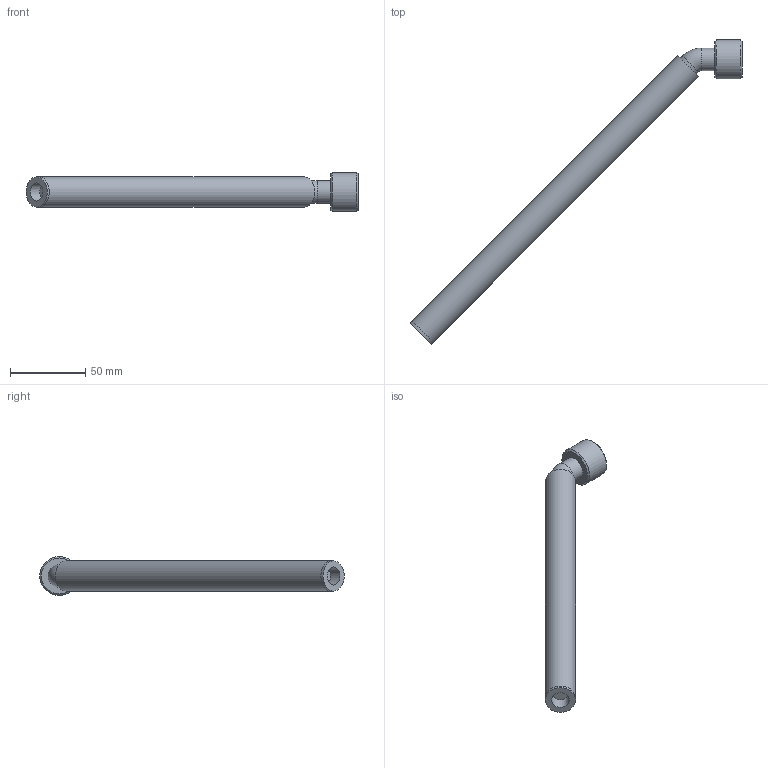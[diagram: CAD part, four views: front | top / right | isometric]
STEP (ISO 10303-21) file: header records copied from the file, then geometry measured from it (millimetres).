
FILE_DESCRIPTION( ( 'STEP AP203' ), '1' );
FILE_NAME( 'C:/Temp/Ganter_Step_05_03_2020/data/3_5/gn880_1/gn880_1_ans_abl/gn_880_1_b/Connector piece with drain hose GN 880.1-22-B-250-T.stp', '2020-03-12T13:42:29', ( 'License CC BY-ND 4.0' ), ( 'CADENAS' ), ' ', 'PARTsolutions', ' ' );
FILE_SCHEMA( ( 'CONFIG_CONTROL_DESIGN' ) );
Length unit declared in the file: millimetre
Products named in the file (5): Connector piece with drain hose GN 880.1-22-B-250-T; _Anschlussstueck mit Ablassschlauch GN 880.1-22-B-250-T_a; _Anschlussstueck mit Ablassschlauch GN 880.1-22-B-250-T_s; _Anschlussstueck mit Ablassschlauch GN 880.1-22-B-250-T_dk; _Anschlussstueck mit Ablassschlauch GN 880.1-22-B-250-T_dk2
Assembly tree (4 placements, depth 2):
  Connector piece with drain hose GN 880.1-22-B-250-T
    _Anschlussstueck mit Ablassschlauch GN 880.1-22-B-250-T_a
    _Anschlussstueck mit Ablassschlauch GN 880.1-22-B-250-T_s
    _Anschlussstueck mit Ablassschlauch GN 880.1-22-B-250-T_dk
    _Anschlussstueck mit Ablassschlauch GN 880.1-22-B-250-T_dk2
Bounding box: 221.1 x 202.75 x 26 mm (x, y, z)
Volume: 48758.8 mm3; surface area: 36093.3 mm2
Topology: 4 solids, 4 shells, 45 faces, 71 edges, 45 vertices
Faces by surface type: plane 19, cylinder 18, torus 5, cone 3
Full cylindrical faces by diameter (mm): 8.5 x1, 9.5 x1, 10.5 x2, 12 x1, 13 x2, 14 x2, 15 x4, 20 x3, 20.376 x1, 26 x1
Entity records: 1062 total; most frequent: DIRECTION 186, CARTESIAN_POINT 137, AXIS2_PLACEMENT_3D 93, EDGE_LOOP 86, ORIENTED_EDGE 86, FACE_OUTER_BOUND 68, ADVANCED_FACE 45, VERTEX_POINT 44
